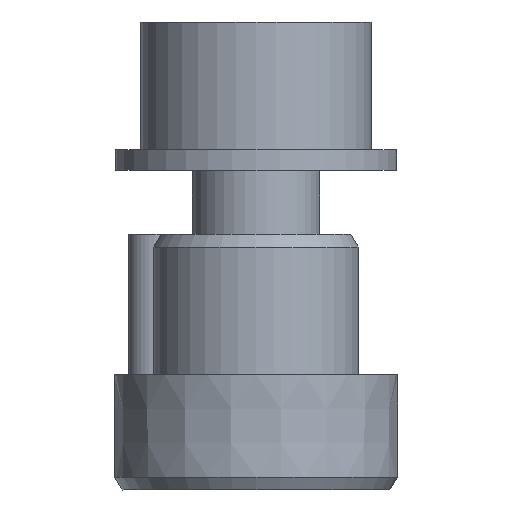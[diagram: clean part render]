
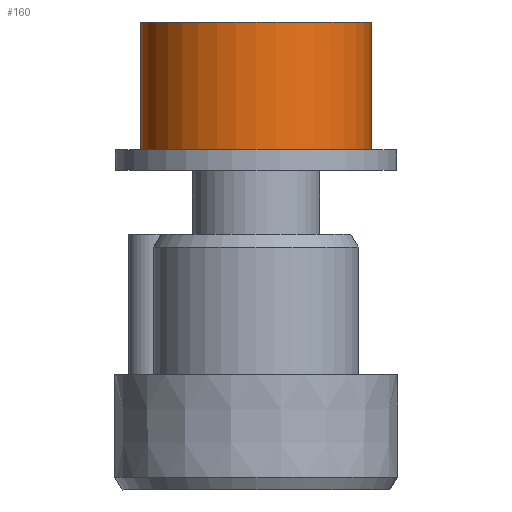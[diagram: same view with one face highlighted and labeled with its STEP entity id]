
A CAD part, left-side view. The second image highlights one B-rep face of the part: STEP entity #160.
In plain terms, the highlighted cylindrical face has radius 4.5 mm (diameter 9 mm), a partial arc.
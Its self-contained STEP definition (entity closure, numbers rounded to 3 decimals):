
#160=ADVANCED_FACE('Translate.2',(#344),#345,.T.);
#344=FACE_OUTER_BOUND('',#604,.T.);
#345=CYLINDRICAL_SURFACE('',#605,4.5);
#604=EDGE_LOOP('',(#844,#845,#846,#847));
#605=AXIS2_PLACEMENT_3D('',#848,#849,#850);
#844=ORIENTED_EDGE('',*,*,#1370,.F.);
#845=ORIENTED_EDGE('',*,*,#1367,.T.);
#846=ORIENTED_EDGE('',*,*,#1369,.T.);
#847=ORIENTED_EDGE('',*,*,#1373,.F.);
#848=CARTESIAN_POINT('',(0.0,0.0,13.3));
#849=DIRECTION('',(0.0,0.0,1.0));
#850=DIRECTION('',(0.,1.0,0.0));
#1367=EDGE_CURVE('',#1585,#1584,#1587,.T.);
#1369=EDGE_CURVE('',#1584,#1589,#1590,.T.);
#1370=EDGE_CURVE('',#1585,#1591,#1592,.T.);
#1373=EDGE_CURVE('',#1591,#1589,#1595,.T.);
#1584=VERTEX_POINT('',#1894);
#1585=VERTEX_POINT('',#1895);
#1587=CIRCLE('',#1897,4.5);
#1589=VERTEX_POINT('',#1899);
#1590=LINE('',#1900,#1901);
#1591=VERTEX_POINT('',#1902);
#1592=LINE('',#1903,#1904);
#1595=CIRCLE('',#1907,4.5);
#1894=CARTESIAN_POINT('',(0.,-4.5,13.3));
#1895=CARTESIAN_POINT('',(0.0,4.5,13.3));
#1897=AXIS2_PLACEMENT_3D('',#2313,#2314,#2315);
#1899=CARTESIAN_POINT('',(0.,-4.5,18.3));
#1900=CARTESIAN_POINT('',(0.,-4.5,15.8));
#1901=VECTOR('',#2316,1.0);
#1902=CARTESIAN_POINT('',(0.0,4.5,18.3));
#1903=CARTESIAN_POINT('',(0.,4.5,15.8));
#1904=VECTOR('',#2317,1.0);
#1907=AXIS2_PLACEMENT_3D('',#2321,#2322,#2323);
#2313=CARTESIAN_POINT('',(0.0,0.0,13.3));
#2314=DIRECTION('',(0.0,-0.0,1.0));
#2315=DIRECTION('',(0.0,1.0,0.0));
#2316=DIRECTION('',(0.0,0.0,1.0));
#2317=DIRECTION('',(0.0,0.0,1.0));
#2321=CARTESIAN_POINT('',(0.0,0.0,18.3));
#2322=DIRECTION('',(0.0,-0.0,1.0));
#2323=DIRECTION('',(0.0,1.0,0.0));
